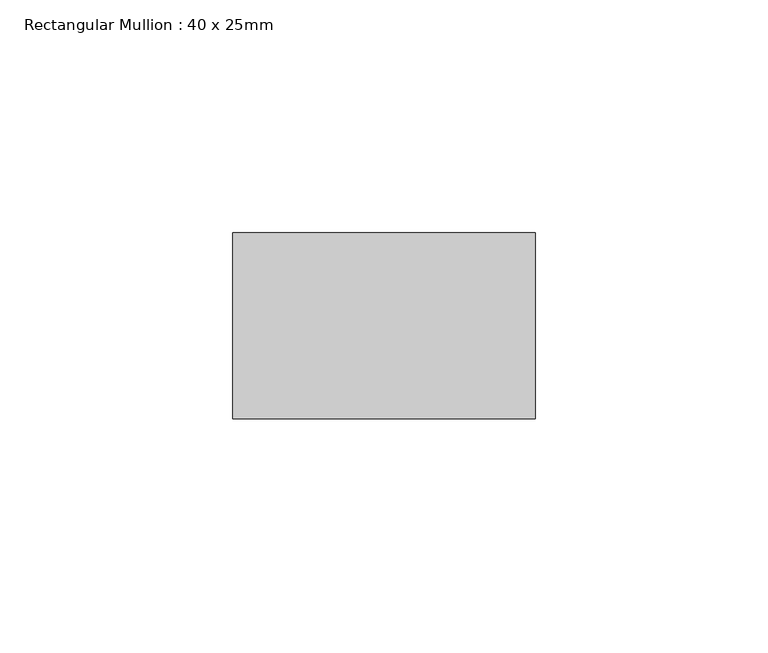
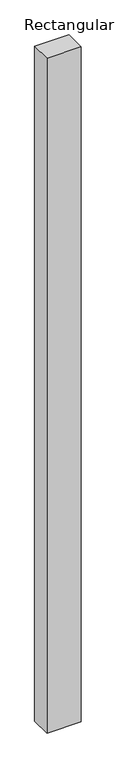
"""IFC4 building model written with IfcOpenShell, lengths in millimetres: member geometry, Rectangular Mullion : 40 x 25mm."""

from ifc_helpers import new_model, si_unit, frame, origin, place, context, project, spatial, polyline, outline, extrude, source, transform, mapped, element, save


def rectangular_mullion_40_x_25mm_91bb00ab(model_context):
    return source(origin(), model_context, "Body", "SweptSolid", [
        extrude(outline(polyline([(0.0, -20.0), (0.0, -60.0), (-65.0, -60.0), (-65.0, -20.0), (0.0, -20.0)])), frame((0.0, 0.0, -1355.5), z_axis=(0.0, 0.0, 1.0), x_axis=(1.0, 0.0, 0.0)), (0.0, 0.0, 1.0), 1355.5),
    ])


if __name__ == "__main__":
    model = new_model("IFC4")
    model_context = context("Model", 3, world=origin())
    ifc_project = project(units=[si_unit("LENGTHUNIT", "METRE", prefix="MILLI")], contexts=[model_context])
    site = spatial("IfcSite", under=ifc_project)
    building = spatial("IfcBuilding", under=site)
    placement = place(None, origin())
    rectangular_mullion_40_x_25mm_shape = rectangular_mullion_40_x_25mm_91bb00ab(model_context)
    element("IfcMember", 1, ObjectType="Rectangular Mullion : 40 x 25mm", at=placement, inside=building, context=model_context, shape_type="MappedRepresentation", body=[
        mapped(rectangular_mullion_40_x_25mm_shape, transform((0.0, 0.0, 0.0), x_axis=(1.0, 0.0, 0.0), y_axis=(0.0, 1.0, 0.0), z_axis=(0.0, 0.0, 1.0))),
    ])
    save(model, "model.ifc")
